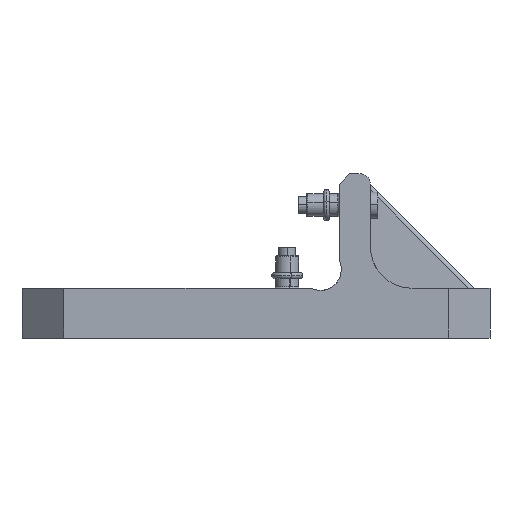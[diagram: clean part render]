
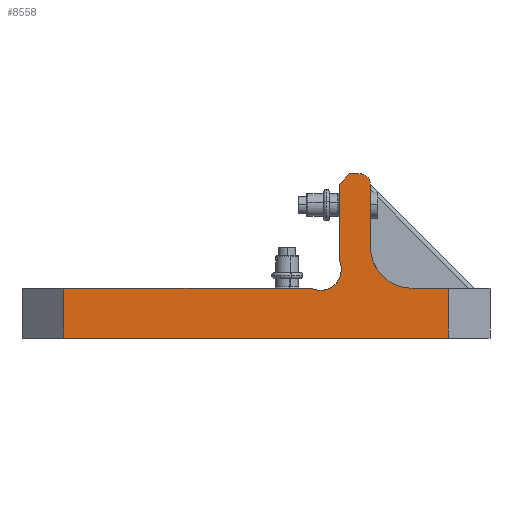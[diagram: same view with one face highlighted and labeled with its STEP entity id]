
A CAD part, front view. The second image highlights one B-rep face of the part: STEP entity #8558.
In plain terms, the highlighted planar face has unit normal (0, -1, 0).
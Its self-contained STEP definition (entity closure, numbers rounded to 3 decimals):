
#145=CARTESIAN_POINT('Vertex',(92.5,-157.5,7.)) ;
#451=CARTESIAN_POINT('Vertex',(75.,-157.5,7.)) ;
#454=CARTESIAN_POINT('Line Origine',(83.75,-157.5,7.)) ;
#7418=CARTESIAN_POINT('Line Origine',(92.5,-157.5,-5.)) ;
#7422=CARTESIAN_POINT('Vertex',(92.5,-157.5,-17.)) ;
#8420=CARTESIAN_POINT('Vertex',(55.,-157.5,27.)) ;
#8423=CARTESIAN_POINT('Axis2P3D Location',(75.,-157.5,27.)) ;
#8435=CARTESIAN_POINT('Axis2P3D Location',(0.,-157.5,132.)) ;
#8440=CARTESIAN_POINT('Line Origine',(42.5,-157.5,59.5)) ;
#8444=CARTESIAN_POINT('Vertex',(45.,-157.5,62.)) ;
#8446=CARTESIAN_POINT('Vertex',(40.,-157.5,57.)) ;
#8449=CARTESIAN_POINT('Line Origine',(40.,-157.5,38.679)) ;
#8453=CARTESIAN_POINT('Vertex',(40.,-157.5,20.359)) ;
#8457=CARTESIAN_POINT('Control Point',(26.641,-157.5,7.)) ;
#8458=CARTESIAN_POINT('Control Point',(27.478,-157.5,6.595)) ;
#8459=CARTESIAN_POINT('Control Point',(28.361,-157.5,6.287)) ;
#8460=CARTESIAN_POINT('Control Point',(29.277,-157.5,6.083)) ;
#8461=CARTESIAN_POINT('Control Point',(31.139,-157.5,5.893)) ;
#8462=CARTESIAN_POINT('Control Point',(32.995,-157.5,6.134)) ;
#8463=CARTESIAN_POINT('Control Point',(33.904,-157.5,6.363)) ;
#8464=CARTESIAN_POINT('Control Point',(35.654,-157.5,7.027)) ;
#8465=CARTESIAN_POINT('Control Point',(37.205,-157.5,8.075)) ;
#8466=CARTESIAN_POINT('Control Point',(37.916,-157.5,8.687)) ;
#8467=CARTESIAN_POINT('Control Point',(39.182,-157.5,10.065)) ;
#8468=CARTESIAN_POINT('Control Point',(40.099,-157.5,11.696)) ;
#8469=CARTESIAN_POINT('Control Point',(40.46,-157.5,12.562)) ;
#8470=CARTESIAN_POINT('Control Point',(40.974,-157.5,14.362)) ;
#8471=CARTESIAN_POINT('Control Point',(41.063,-157.5,16.231)) ;
#8472=CARTESIAN_POINT('Control Point',(40.997,-157.5,17.167)) ;
#8473=CARTESIAN_POINT('Control Point',(40.768,-157.5,18.381)) ;
#8474=CARTESIAN_POINT('Control Point',(40.36,-157.5,19.539)) ;
#8475=CARTESIAN_POINT('Control Point',(40.25,-157.5,19.818)) ;
#8476=CARTESIAN_POINT('Control Point',(40.13,-157.5,20.091)) ;
#8477=CARTESIAN_POINT('Control Point',(40.,-157.5,20.359)) ;
#8478=CARTESIAN_POINT('Vertex',(26.641,-157.5,7.)) ;
#8481=CARTESIAN_POINT('Line Origine',(-32.929,-157.5,7.)) ;
#8485=CARTESIAN_POINT('Vertex',(-92.5,-157.5,7.)) ;
#8488=CARTESIAN_POINT('Line Origine',(-92.5,-157.5,-5.)) ;
#8492=CARTESIAN_POINT('Vertex',(-92.5,-157.5,-17.)) ;
#8495=CARTESIAN_POINT('Line Origine',(-76.25,-157.5,-17.)) ;
#8499=CARTESIAN_POINT('Vertex',(-60.,-157.5,-17.)) ;
#8502=CARTESIAN_POINT('Line Origine',(0.,-157.5,-17.)) ;
#8506=CARTESIAN_POINT('Vertex',(60.,-157.5,-17.)) ;
#8509=CARTESIAN_POINT('Line Origine',(76.25,-157.5,-17.)) ;
#8514=CARTESIAN_POINT('Line Origine',(55.,-157.5,42.)) ;
#8518=CARTESIAN_POINT('Vertex',(55.,-157.5,57.)) ;
#8522=CARTESIAN_POINT('Control Point',(55.,-157.5,57.)) ;
#8523=CARTESIAN_POINT('Control Point',(55.,-157.5,57.548)) ;
#8524=CARTESIAN_POINT('Control Point',(54.925,-157.5,58.095)) ;
#8525=CARTESIAN_POINT('Control Point',(54.775,-157.5,58.63)) ;
#8526=CARTESIAN_POINT('Control Point',(54.333,-157.5,59.643)) ;
#8527=CARTESIAN_POINT('Control Point',(53.634,-157.5,60.5)) ;
#8528=CARTESIAN_POINT('Control Point',(53.228,-157.5,60.878)) ;
#8529=CARTESIAN_POINT('Control Point',(52.382,-157.5,61.47)) ;
#8530=CARTESIAN_POINT('Control Point',(51.417,-157.5,61.83)) ;
#8531=CARTESIAN_POINT('Control Point',(50.951,-157.5,61.944)) ;
#8532=CARTESIAN_POINT('Control Point',(50.475,-157.5,62.)) ;
#8533=CARTESIAN_POINT('Control Point',(50.,-157.5,62.)) ;
#8534=CARTESIAN_POINT('Vertex',(50.,-157.5,62.)) ;
#8537=CARTESIAN_POINT('Line Origine',(47.5,-157.5,62.)) ;
#455=DIRECTION('Vector Direction',(1.,0.,0.)) ;
#7419=DIRECTION('Vector Direction',(0.,0.,1.)) ;
#8424=DIRECTION('Axis2P3D Direction',(0.,-1.,0.)) ;
#8436=DIRECTION('Axis2P3D Direction',(0.,1.,0.)) ;
#8437=DIRECTION('Axis2P3D XDirection',(0.,0.,-1.)) ;
#8441=DIRECTION('Vector Direction',(-0.707,0.,-0.707)) ;
#8450=DIRECTION('Vector Direction',(0.,0.,-1.)) ;
#8482=DIRECTION('Vector Direction',(-1.,0.,0.)) ;
#8489=DIRECTION('Vector Direction',(0.,0.,-1.)) ;
#8496=DIRECTION('Vector Direction',(-1.,0.,0.)) ;
#8503=DIRECTION('Vector Direction',(-1.,0.,0.)) ;
#8510=DIRECTION('Vector Direction',(-1.,0.,0.)) ;
#8515=DIRECTION('Vector Direction',(0.,0.,1.)) ;
#8538=DIRECTION('Vector Direction',(1.,0.,0.)) ;
#8425=AXIS2_PLACEMENT_3D('Circle Axis2P3D',#8423,#8424,$) ;
#8438=AXIS2_PLACEMENT_3D('Plane Axis2P3D',#8435,#8436,#8437) ;
#8543=ORIENTED_EDGE('',*,*,#8448,.T.) ;
#8544=ORIENTED_EDGE('',*,*,#8455,.T.) ;
#8545=ORIENTED_EDGE('',*,*,#8480,.F.) ;
#8546=ORIENTED_EDGE('',*,*,#8487,.T.) ;
#8547=ORIENTED_EDGE('',*,*,#8494,.T.) ;
#8548=ORIENTED_EDGE('',*,*,#8501,.F.) ;
#8549=ORIENTED_EDGE('',*,*,#8508,.F.) ;
#8550=ORIENTED_EDGE('',*,*,#8513,.F.) ;
#8551=ORIENTED_EDGE('',*,*,#7424,.T.) ;
#8552=ORIENTED_EDGE('',*,*,#458,.F.) ;
#8553=ORIENTED_EDGE('',*,*,#8427,.F.) ;
#8554=ORIENTED_EDGE('',*,*,#8520,.T.) ;
#8555=ORIENTED_EDGE('',*,*,#8536,.T.) ;
#8556=ORIENTED_EDGE('',*,*,#8541,.F.) ;
#456=VECTOR('Line Direction',#455,1.) ;
#7420=VECTOR('Line Direction',#7419,1.) ;
#8442=VECTOR('Line Direction',#8441,1.) ;
#8451=VECTOR('Line Direction',#8450,1.) ;
#8483=VECTOR('Line Direction',#8482,1.) ;
#8490=VECTOR('Line Direction',#8489,1.) ;
#8497=VECTOR('Line Direction',#8496,1.) ;
#8504=VECTOR('Line Direction',#8503,1.) ;
#8511=VECTOR('Line Direction',#8510,1.) ;
#8516=VECTOR('Line Direction',#8515,1.) ;
#8539=VECTOR('Line Direction',#8538,1.) ;
#8558=ADVANCED_FACE('Body.60 ( *SOL200893 - wsp *MASTER -  )',(#8557),#8439,.F.) ;
#8456=B_SPLINE_CURVE_WITH_KNOTS('',5,(#8457,#8458,#8459,#8460,#8461,#8462,#8463,#8464,#8465,#8466,#8467,#8468,#8469,#8470,#8471,#8472,#8473,#8474,#8475,#8476,#8477),.UNSPECIFIED.,.F.,.U.,(6,3,3,3,3,3,6),(0.,6.587,13.173,19.76,26.346,32.933,35.044),.UNSPECIFIED.) ;
#8521=B_SPLINE_CURVE_WITH_KNOTS('',5,(#8522,#8523,#8524,#8525,#8526,#8527,#8528,#8529,#8530,#8531,#8532,#8533),.UNSPECIFIED.,.F.,.U.,(6,3,3,6),(0.,3.884,7.768,11.139),.UNSPECIFIED.) ;
#8426=CIRCLE('generated circle',#8425,20.) ;
#458=EDGE_CURVE('',#452,#146,#457,.T.) ;
#7424=EDGE_CURVE('',#7423,#146,#7421,.T.) ;
#8427=EDGE_CURVE('',#8421,#452,#8426,.T.) ;
#8448=EDGE_CURVE('',#8445,#8447,#8443,.T.) ;
#8455=EDGE_CURVE('',#8447,#8454,#8452,.T.) ;
#8480=EDGE_CURVE('',#8479,#8454,#8456,.T.) ;
#8487=EDGE_CURVE('',#8479,#8486,#8484,.T.) ;
#8494=EDGE_CURVE('',#8486,#8493,#8491,.T.) ;
#8501=EDGE_CURVE('',#8500,#8493,#8498,.T.) ;
#8508=EDGE_CURVE('',#8507,#8500,#8505,.T.) ;
#8513=EDGE_CURVE('',#7423,#8507,#8512,.T.) ;
#8520=EDGE_CURVE('',#8421,#8519,#8517,.T.) ;
#8536=EDGE_CURVE('',#8519,#8535,#8521,.T.) ;
#8541=EDGE_CURVE('',#8445,#8535,#8540,.T.) ;
#8542=EDGE_LOOP('',(#8543,#8544,#8545,#8546,#8547,#8548,#8549,#8550,#8551,#8552,#8553,#8554,#8555,#8556)) ;
#8557=FACE_OUTER_BOUND('',#8542,.T.) ;
#457=LINE('Line',#454,#456) ;
#7421=LINE('Line',#7418,#7420) ;
#8443=LINE('Line',#8440,#8442) ;
#8452=LINE('Line',#8449,#8451) ;
#8484=LINE('Line',#8481,#8483) ;
#8491=LINE('Line',#8488,#8490) ;
#8498=LINE('Line',#8495,#8497) ;
#8505=LINE('Line',#8502,#8504) ;
#8512=LINE('Line',#8509,#8511) ;
#8517=LINE('Line',#8514,#8516) ;
#8540=LINE('Line',#8537,#8539) ;
#8439=PLANE('',#8438) ;
#146=VERTEX_POINT('',#145) ;
#452=VERTEX_POINT('',#451) ;
#7423=VERTEX_POINT('',#7422) ;
#8421=VERTEX_POINT('',#8420) ;
#8445=VERTEX_POINT('',#8444) ;
#8447=VERTEX_POINT('',#8446) ;
#8454=VERTEX_POINT('',#8453) ;
#8479=VERTEX_POINT('',#8478) ;
#8486=VERTEX_POINT('',#8485) ;
#8493=VERTEX_POINT('',#8492) ;
#8500=VERTEX_POINT('',#8499) ;
#8507=VERTEX_POINT('',#8506) ;
#8519=VERTEX_POINT('',#8518) ;
#8535=VERTEX_POINT('',#8534) ;
